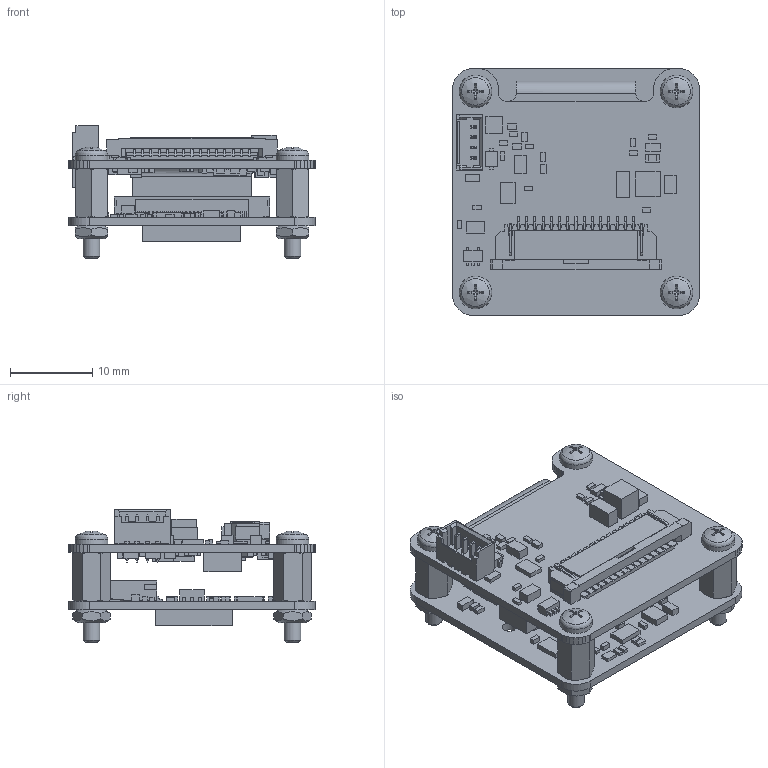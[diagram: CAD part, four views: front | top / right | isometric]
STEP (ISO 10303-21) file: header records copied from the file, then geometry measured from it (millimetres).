
FILE_DESCRIPTION(/* description */ ('289-20-1-01-00'),/* implementation_level */ '2;1');
FILE_NAME(/* name */ 'D:\HiDrive\1_Konstruktion\1_KUNDEN\TIS\289-20_MIPI-Dokumentation\289-20-1-01-00_AX-R120_IMX290-R100.stp',/* time_stamp */ '2020-12-17T08:33:24+01:00',/* author */ ('Westermann'),/* organization */ ('TIS, Bremen-Germany'),/* preprocessor_version */ 'ST-DEVELOPER v16.5',/* originating_system */ 'Autodesk Inventor 2017',/* authorisation */ '');
FILE_SCHEMA (('AUTOMOTIVE_DESIGN { 1 0 10303 214 3 1 1 }'));
Products named in the file (6): 289-20-1-01-00_AX-R120_IMX290-R100; ISO 4032 - M2; ISO 7045 - M2 x 4 - 4.8 - H; IMX290_MIPI_HB_R1_00; TISMIPI_JetsonNano_Adapter_folded_R1-20; Distanzbolzen-IA-M2x6_0100018_SIBALCO
Assembly tree (14 placements, depth 2):
  289-20-1-01-00_AX-R120_IMX290-R100
    ISO 4032 - M2  x4
    ISO 7045 - M2 x 4 - 4.8 - H  x4
    IMX290_MIPI_HB_R1_00
    TISMIPI_JetsonNano_Adapter_folded_R1-20
    Distanzbolzen-IA-M2x6_0100018_SIBALCO  x4
Bounding box: 30.1 x 30.1 x 16.21 mm (x, y, z)
Volume: 3156.9 mm3; surface area: 7257.4 mm2
Topology: 17 solids, 17 shells, 3539 faces, 9839 edges, 6377 vertices
Faces by surface type: plane 3144, cylinder 239, cone 124, torus 28, sphere 4
Full cylindrical faces by diameter (mm): 0.5 x5, 1.4 x4, 1.567 x8, 1.7 x2, 1.783 x4, 2 x8, 2.1 x8
Entity records: 108760 total; most frequent: CARTESIAN_POINT 18838, ORIENTED_EDGE 18614, DIRECTION 16447, EDGE_CURVE 9303, LINE 8749, VECTOR 8749, VERTEX_POINT 6068, AXIS2_PLACEMENT_3D 3849
